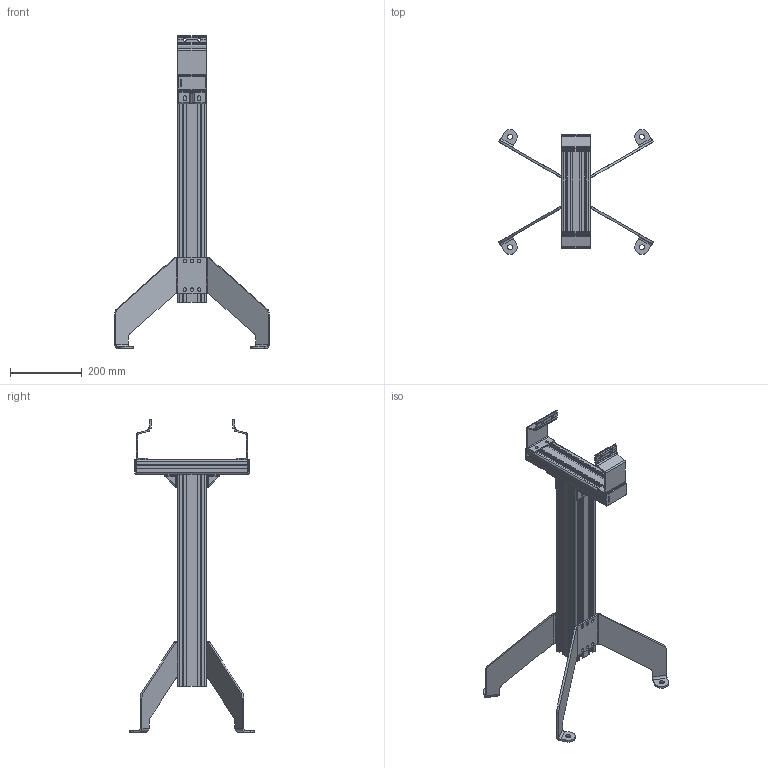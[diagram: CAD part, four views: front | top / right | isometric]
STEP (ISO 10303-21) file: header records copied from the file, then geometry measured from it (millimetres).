
FILE_DESCRIPTION((''),'2;1');
FILE_NAME('C:\Vault Klient\Projekt\Koncept konstruktion\Benstöd\100-1375.stp','2009-12-03T10:09:11',('Mathias'),(''),'Autodesk Inventor 2010','Autodesk Inventor 2010','');
FILE_SCHEMA(('CONFIG_CONTROL_DESIGN'));
Length unit declared in the file: millimetre
Products named in the file (7): 100-1375; 100-1030-03; 100-1155; 100-1020-01; 100-4020; 100-1240; 100-2020
Assembly tree (12 placements, depth 2):
  100-1375
    100-1030-03
    100-1155  x2
    100-1020-01
    100-4020  x4
    100-1240  x2
    100-2020  x2
Bounding box: 430.57 x 347.93 x 872 mm (x, y, z)
Volume: 4238349.7 mm3; surface area: 870360.6 mm2
Topology: 12 solids, 12 shells, 1342 faces, 3698 edges, 2408 vertices
Faces by surface type: plane 844, cylinder 294, bspline 168, sphere 24, torus 12
Entity records: 26112 total; most frequent: CARTESIAN_POINT 6223, ORIENTED_EDGE 4266, DIRECTION 3868, EDGE_CURVE 2133, VECTOR 1554, LINE 1554, VERTEX_POINT 1413, AXIS2_PLACEMENT_3D 1157
